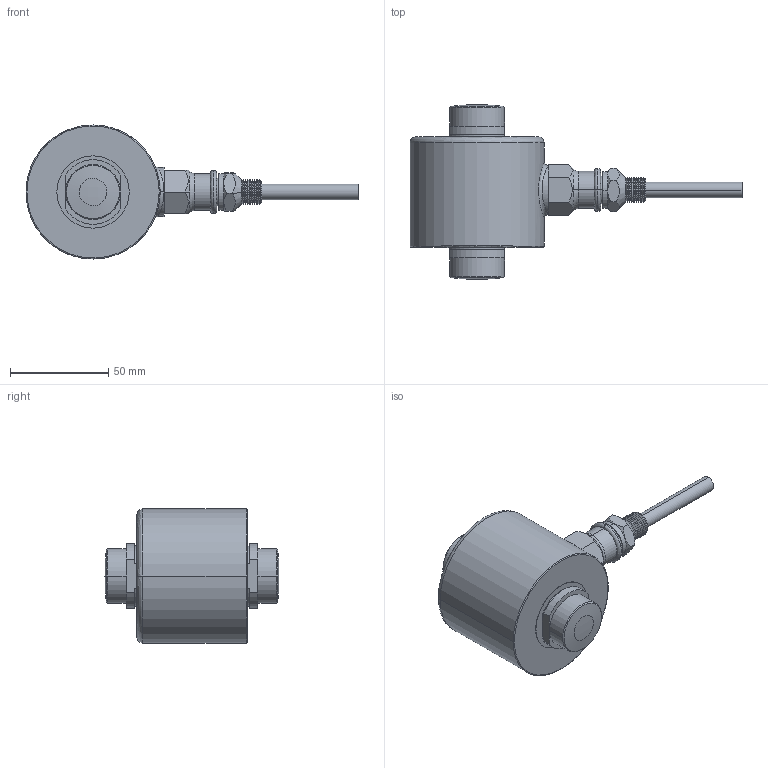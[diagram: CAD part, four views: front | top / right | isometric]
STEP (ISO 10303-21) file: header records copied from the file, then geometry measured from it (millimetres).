
FILE_DESCRIPTION (( 'STEP AP203' ), '1' );
FILE_NAME ('Load Sensor_HIRCH04_16.5KLB-50KLB.STEP', '2022-05-31T16:08:33', ( '' ), ( '' ), 'SwSTEP 2.0', 'SolidWorks 2020', '' );
FILE_SCHEMA (( 'CONFIG_CONTROL_DESIGN' ));
Length unit declared in the file: millimetre
Products named in the file (8): Socket Set Screw Cup Point_AI_SSCUPSKT 0.5-20x0.5-HX-C; Load Sensor_HIRCH04_16.5KLB-50KLB; RC3-15T; Adapter Nut; Cable Adapter; Cable; Hardy Cable Assembly
Assembly tree (7 placements, depth 4):
  Load Sensor_HIRCH04_16.5KLB-50KLB
    RC3-15T
    Hardy Cable Assembly
      Adapter Nut
        Socket Set Screw Cup Point_AI_SSCUPSKT 0.5-20x0.5-HX-C
        Adapter Nut
      Cable
      Cable Adapter
Bounding box: 169.12 x 88.84 x 68.3 mm (x, y, z)
Volume: 239776.5 mm3; surface area: 31429.3 mm2
Topology: 5 solids, 5 shells, 171 faces, 380 edges, 226 vertices
Faces by surface type: cylinder 58, cone 56, plane 39, bspline 18
Entity records: 7227 total; most frequent: CARTESIAN_POINT 2611, DIRECTION 847, ORIENTED_EDGE 760, EDGE_CURVE 380, AXIS2_PLACEMENT_3D 344, VERTEX_POINT 226, EDGE_LOOP 184, CIRCLE 179
